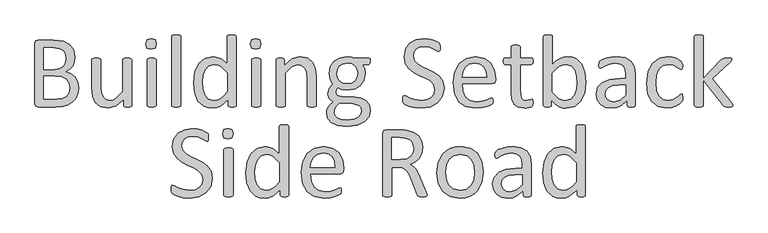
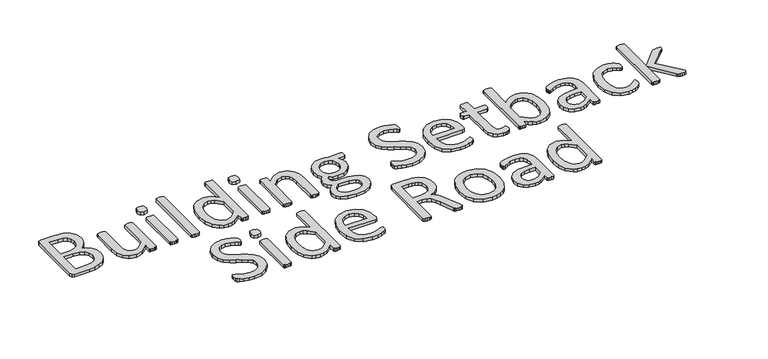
"""IFC4 building model written with IfcOpenShell, lengths in millimetres: proxy geometry, Marker-Setback Bldg Distance : Setback-Building-Side Road."""

from ifc_helpers import new_model, si_unit, origin, origin_with_axes, place, context, project, spatial, polyline, outline, extrude, source, transform, mapped, element, save


def generic_models_a72e6efc(model_context):
    return source(origin(), model_context, "Body", "SweptSolid", [
        extrude(outline(polyline([(2948.652928, 103.9978258), (2946.2704862, 86.8080563), (2939.5755234, 72.6340358), (2929.2013467, 61.6265518), (2915.5098461, 53.6649743), (2899.1946438, 48.8397759), (2879.2907001, 47.2414289), (2827.2388718, 47.2414289), (2820.5740664, 49.6540281), (2817.4075299, 58.0981254), (2817.4075299, 237.1129882), (2820.6042239, 245.5570855), (2827.3595017, 247.9696848), (2872.9576272, 247.9696848), (2902.4818102, 244.5015734), (2921.6318166, 234.4289716), (2933.1821354, 218.2042418), (2937.0724517, 196.4606912), (2935.3534747, 182.6184031), (2930.3171738, 170.4046195), (2921.9333915, 160.3923327), (2910.3529152, 153.1545351), (2925.3110304, 147.5753993), (2937.4343416, 137.2313801), (2945.6371789, 122.5446823), (2948.652928, 103.9978258)]), holes=[polyline([(2910.0513403, 192.8417924), (2908.0307885, 206.1714031), (2901.6977155, 216.2741624), (2890.4188141, 222.6072354), (2871.9925875, 224.8087322), (2844.4286413, 224.8087322), (2844.4286413, 159.1860331), (2874.7670766, 159.1860331), (2891.4743262, 161.9303648), (2901.9992904, 169.2887924), (2908.1212609, 180.085174), (2910.0513403, 192.8417924)]), polyline([(2921.6318166, 103.7565658), (2918.7970125, 119.3178309), (2910.5037027, 130.5967323), (2896.812202, 137.5329551), (2876.0940062, 139.8852393), (2844.4286413, 139.8852393), (2844.4286413, 70.4023815), (2882.849284, 70.4023815), (2898.7121239, 72.5435633), (2910.6243326, 78.8766363), (2918.70654, 89.311128), (2921.6318166, 103.7565658)])]), origin_with_axes(), (0.0, 0.0, 1.0), 10.0),
        extrude(outline(polyline([(3106.9194374, 51.9459974), (3106.3464451, 49.8952881), (3104.3258932, 48.4477285), (3100.495892, 47.5430038), (3094.7358113, 47.2414289), (3088.5836833, 47.5430038), (3084.8441545, 48.4477285), (3082.9743901, 49.8952881), (3082.4918702, 51.9459974), (3082.4918702, 70.1008066), (3059.3610751, 49.7746581), (3036.23028, 43.3812701), (3013.1899574, 48.0255236), (2998.0508972, 60.6011971), (2989.7575873, 79.1178962), (2987.2545156, 104.8422355), (2987.2545156, 189.1625786), (2987.827508, 191.2132879), (2990.0290048, 192.7513199), (2994.2510534, 193.6862021), (3000.7650713, 193.927462), (3007.2790892, 193.6862021), (3011.4106654, 192.7814774), (3013.6121622, 191.2736029), (3014.275627, 189.1625786), (3014.275627, 109.0642841), (3015.9644465, 89.7333328), (3021.1515348, 77.3386043), (3029.957522, 69.3770268), (3042.382408, 66.5422227), (3051.527667, 68.2385816), (3060.6276897, 73.3276581), (3079.898326, 93.2617592), (3079.898326, 189.2228935), (3080.4713184, 191.2736029), (3082.6728152, 192.7814774), (3086.8345488, 193.6862021), (3093.4088817, 193.927462), (3099.9228996, 193.6862021), (3103.9941608, 192.7814774), (3106.1956576, 191.2736029), (3106.9194374, 189.2228935), (3106.9194374, 51.9459974)])), origin_with_axes(), (0.0, 0.0, 1.0), 10.0),
        extrude(outline(polyline([(3180.262454, 236.5701534), (3176.94513, 224.2357399), (3164.640874, 220.9485734), (3152.6381928, 224.1452674), (3149.3811838, 236.2082635), (3152.6985078, 248.5426771), (3165.0027639, 251.8298435), (3177.005445, 248.6331496), (3180.262454, 236.5701534)])), origin_with_axes(), (0.0, 0.0, 1.0), 10.0),
        extrude(outline(polyline([(3180.262454, 51.9459974), (3179.5989892, 49.8952881), (3177.4578074, 48.4477285), (3173.3865462, 47.5430038), (3166.6915833, 47.2414289), (3160.1172504, 47.5430038), (3155.9555167, 48.4477285), (3153.8143349, 49.8952881), (3153.2413426, 51.9459974), (3153.2413426, 189.2228935), (3153.8143349, 191.1831304), (3155.9555167, 192.7211624), (3160.1172504, 193.6258871), (3166.6915833, 193.927462), (3173.3865462, 193.6258871), (3177.4578074, 192.7211624), (3179.5989892, 191.1831304), (3180.262454, 189.2228935), (3180.262454, 51.9459974)])), origin_with_axes(), (0.0, 0.0, 1.0), 10.0),
        extrude(outline(polyline([(3253.6054705, 52.0063124), (3252.9420058, 49.955603), (3250.8008239, 48.477886), (3246.7295627, 47.5430038), (3240.0345999, 47.2414289), (3233.460267, 47.5430038), (3229.2985333, 48.477886), (3227.1573515, 49.955603), (3226.5843592, 52.0063124), (3226.5843592, 258.4644914), (3227.1573515, 260.6358307), (3229.2985333, 262.1738627), (3233.460267, 263.1087449), (3240.0345999, 263.4103198), (3246.7295627, 263.1087449), (3250.8008239, 262.1738627), (3252.9420058, 260.6358307), (3253.6054705, 258.4644914), (3253.6054705, 52.0063124)])), origin_with_axes(), (0.0, 0.0, 1.0), 10.0),
        extrude(outline(polyline([(3419.5922975, 52.0666274), (3419.0193052, 49.8651306), (3417.0590683, 48.3874135), (3413.410012, 47.5430038), (3407.8911913, 47.2414289), (3402.1612681, 47.5430038), (3398.4217393, 48.3270986), (3396.310715, 49.6841856), (3395.6472502, 51.7047375), (3395.6472502, 68.834192), (3373.2402348, 50.1063905), (3361.0792268, 45.0625502), (3347.8174704, 43.3812701), (3333.8545524, 44.8816053), (3322.1232887, 49.3826107), (3304.9033617, 65.6073405), (3295.2529647, 89.6730178), (3292.2070582, 118.774996), (3296.006902, 151.4958731), (3307.2254884, 176.4059601), (3325.6215575, 192.2386426), (3351.0141644, 197.7876208), (3372.9386599, 192.38943), (3392.5711861, 176.5567476), (3392.5711861, 258.4041764), (3393.1441785, 260.5152008), (3395.3456753, 262.0833903), (3399.5074089, 263.0182725), (3405.9007969, 263.4103198), (3412.5957598, 263.0182725), (3416.6670209, 262.0833903), (3418.8685177, 260.5453582), (3419.5922975, 258.4644914), (3419.5922975, 52.0666274)]), holes=[polyline([(3392.5711861, 149.0531164), (3373.2100773, 168.0824928), (3363.6652316, 172.9906243), (3353.7283386, 174.6266682), (3337.7448687, 170.0427297), (3327.0691171, 157.949576), (3321.097934, 140.9407515), (3319.2281696, 121.6701151), (3320.7963591, 101.2836516), (3326.2548648, 83.6113623), (3336.5687265, 71.2166337), (3352.7029839, 66.5422227), (3362.1724359, 67.8993098), (3371.5212579, 72.3927759), (3381.5033872, 80.5352983), (3392.5711861, 92.8998693), (3392.5711861, 149.0531164)])]), origin_with_axes(), (0.0, 0.0, 1.0), 10.0),
        extrude(outline(polyline([(3492.9353141, 236.5701534), (3489.6179901, 224.2357399), (3477.3137341, 220.9485734), (3465.3110529, 224.1452674), (3462.0540439, 236.2082635), (3465.3713679, 248.5426771), (3477.675624, 251.8298435), (3489.6783051, 248.6331496), (3492.9353141, 236.5701534)])), origin_with_axes(), (0.0, 0.0, 1.0), 10.0),
        extrude(outline(polyline([(3492.9353141, 51.9459974), (3492.2718493, 49.8952881), (3490.1306675, 48.4477285), (3486.0594063, 47.5430038), (3479.3644434, 47.2414289), (3472.7901105, 47.5430038), (3468.6283768, 48.4477285), (3466.487195, 49.8952881), (3465.9142027, 51.9459974), (3465.9142027, 189.2228935), (3466.487195, 191.1831304), (3468.6283768, 192.7211624), (3472.7901105, 193.6258871), (3479.3644434, 193.927462), (3486.0594063, 193.6258871), (3490.1306675, 192.7211624), (3492.2718493, 191.1831304), (3492.9353141, 189.2228935), (3492.9353141, 51.9459974)])), origin_with_axes(), (0.0, 0.0, 1.0), 10.0),
        extrude(outline(polyline([(3658.922141, 52.0063124), (3658.2586763, 49.955603), (3656.1174944, 48.477886), (3652.0462332, 47.5430038), (3645.4719003, 47.2414289), (3638.7769375, 47.5430038), (3634.7056763, 48.4477285), (3632.5644945, 49.8952881), (3631.9010297, 52.0063124), (3631.9010297, 132.5871266), (3630.1217378, 151.5260306), (3624.9648069, 163.9207591), (3616.1889772, 171.8823366), (3603.7339337, 174.6266682), (3585.428337, 167.9015478), (3566.2783306, 148.1483917), (3566.2783306, 52.0063124), (3565.6148659, 49.8952881), (3563.473684, 48.4477285), (3559.4024228, 47.5430038), (3552.70746, 47.2414289), (3546.1331271, 47.5430038), (3541.9713934, 48.4477285), (3539.8302116, 49.8952881), (3539.2572193, 51.9459974), (3539.2572193, 189.2228935), (3539.7397391, 191.2736029), (3541.699976, 192.7814774), (3545.4696623, 193.6862021), (3551.5614754, 193.927462), (3557.5326584, 193.6862021), (3561.2118723, 192.7814774), (3563.1117942, 191.2736029), (3563.6847865, 189.2228935), (3563.6847865, 171.0680843), (3586.7552666, 191.3640754), (3609.9463767, 197.7876208), (3632.9866993, 193.0830523), (3648.1257595, 180.5073788), (3656.4190693, 162.0811522), (3658.922141, 136.6885453), (3658.922141, 52.0063124)])), origin_with_axes(), (0.0, 0.0, 1.0), 10.0),
        extrude(outline(polyline([(3821.0488092, 184.2167501), (3819.5710922, 176.88848), (3815.8014059, 174.6266682), (3795.8371473, 174.6266682), (3803.4368349, 162.1414672), (3805.6081742, 147.9674467), (3801.7480154, 126.4953136), (3790.6802165, 110.6927886), (3773.5507619, 100.8312893), (3751.5659514, 97.4234929), (3735.3713791, 99.6853046), (3723.5194854, 105.3850703), (3718.694287, 99.0821548), (3716.8245225, 90.9094749), (3721.9512959, 81.9828578), (3735.5824816, 78.122699), (3772.6158797, 76.5545095), (3792.0373035, 73.629233), (3807.3271511, 66.1803328), (3817.4299104, 54.3284391), (3821.0488092, 38.0132368), (3817.0077055, 19.3457503), (3804.612977, 3.7844853), (3783.3217888, -6.8007938), (3752.7722511, -10.6609526), (3723.8512178, -7.7658335), (3704.309164, 0.135429), (3693.2413651, 12.1079526), (3689.8034112, 27.1565403), (3691.0398683, 37.1989846), (3694.8397121, 46.4271767), (3701.1727851, 54.7808015), (3709.8882998, 62.682064), (3697.6443587, 72.6038783), (3693.6635699, 85.5414417), (3697.7649886, 102.7010537), (3707.8979054, 116.2417669), (3700.2982178, 129.2094877), (3697.5237287, 146.7611471), (3701.5346749, 168.2031228), (3712.6929464, 184.2469076), (3729.8224009, 194.2893519), (3751.5659514, 197.7876208), (3763.3876877, 196.7622661), (3773.7015494, 193.927462), (3815.8014059, 193.927462), (3819.7218797, 191.5450203), (3821.0488092, 184.2167501)]), holes=[polyline([(3782.4472216, 147.7865018), (3780.411591, 160.6712895), (3774.3046992, 170.3744621), (3764.4431998, 176.4587357), (3751.1437466, 178.486827), (3737.6935059, 175.9535978), (3728.1637389, 169.017375), (3722.5242882, 158.8543007), (3720.6846813, 146.8214621), (3722.7203119, 134.2759461), (3728.8272037, 124.7461791), (3738.5982306, 118.7297598), (3751.6262664, 116.7242867), (3765.3479245, 119.1670434), (3774.968164, 125.9524788), (3780.6076147, 135.9647656), (3782.4472216, 147.7865018)]), polyline([(3794.0276979, 37.1688271), (3792.1579335, 45.6657), (3786.5486403, 51.9761549), (3766.3431217, 57.4949756), (3729.6716134, 58.8219052), (3721.3783036, 50.9809577), (3716.2515302, 43.86379), (3713.6579861, 37.1989846), (3712.9643638, 30.4135493), (3715.557908, 20.9817942), (3723.3385405, 14.158662), (3735.7634265, 10.0195464), (3752.2897312, 8.6398412), (3772.0730449, 11.022283), (3784.9201358, 17.3855134), (3791.9166736, 26.462918), (3794.0276979, 37.1688271)])]), origin_with_axes(), (0.0, 0.0, 1.0), 10.0),
        extrude(outline(polyline([(4041.077859, 103.153416), (4035.8907706, 77.8211241), (4021.4453327, 58.9726927), (3999.7017822, 47.3017439), (3972.8013008, 43.3812701), (3954.1036567, 44.8891447), (3938.7233367, 48.598516), (3927.3841203, 53.152297), (3921.0208898, 57.1632432), (3918.3971881, 61.8074967), (3917.5527784, 69.7389167), (3917.8543533, 75.6196273), (3918.7892355, 79.3893136), (3920.357425, 81.4098655), (3922.5589218, 81.9828578), (3928.7412073, 79.5702586), (3939.0249116, 74.3228552), (3954.1338142, 69.0151369), (3974.5504352, 66.5422227), (3990.6243776, 68.894507), (4003.1397361, 75.5291549), (4011.2219435, 86.0239615), (4014.0567476, 100.197982), (4010.0759589, 114.9148373), (3999.6113097, 125.6207464), (3984.8039819, 134.0648437), (3967.7348424, 141.9057912), (3950.7561753, 150.7419358), (3936.0091625, 162.1414672), (3925.4540409, 177.5821023), (3921.4129372, 198.7526605), (3926.0270332, 221.4009358), (3938.8439666, 238.0478704), (3958.3860204, 248.3014172), (3982.8739025, 251.8298435), (3996.4146157, 250.5330714), (4009.2315491, 247.0951175), (4019.9676157, 242.3000766), (4026.1499012, 238.0177129), (4028.0799806, 235.5146412), (4028.8640754, 233.282987), (4029.3465952, 229.9958205), (4029.4973827, 225.0499921), (4029.2561227, 219.9232187), (4028.5625004, 216.1836899), (4027.2355709, 213.9520356), (4025.275334, 213.2282559), (4019.8469857, 215.5805401), (4010.7997386, 220.8581009), (3998.1335927, 226.2261342), (3981.7279179, 228.6688909), (3966.9809051, 226.4673941), (3956.6067284, 220.616841), (3950.4847579, 211.9314838), (3948.4340486, 201.2858897), (3952.3545223, 186.7499793), (3962.8191715, 175.9535978), (3977.6868142, 167.3285555), (3994.6654813, 159.4272931), (4011.6743058, 150.6514634), (4026.5419486, 139.372562), (4037.0669127, 124.0525569), (4041.077859, 103.153416)])), origin_with_axes(), (0.0, 0.0, 1.0), 10.0),
        extrude(outline(polyline([(4195.4842096, 127.7619282), (4192.4986181, 119.2575159), (4185.6528678, 116.7242867), (4095.1200817, 116.7242867), (4097.3818935, 94.4077438), (4104.8911086, 77.3989193), (4118.5826092, 66.4819078), (4139.2103326, 62.682064), (4156.3397871, 64.4613559), (4169.367823, 68.4723021), (4178.3849126, 72.4832483), (4183.7227884, 74.2625403), (4185.5925528, 73.7498629), (4186.8893249, 72.2419884), (4187.5527897, 69.4373418), (4187.7638921, 65.0343482), (4187.6131046, 61.8074967), (4187.2210573, 59.36474), (4186.46712, 57.4045032), (4185.1100329, 55.7458412), (4180.194362, 52.8205646), (4169.6090829, 48.6588309), (4154.5303377, 45.0097746), (4136.2548985, 43.3812701), (4106.7910305, 48.2064686), (4085.5299997, 62.561434), (4072.5019639, 86.4763239), (4068.0989703, 119.8606657), (4072.7130663, 152.4307553), (4086.0125196, 176.9186375), (4107.0021329, 192.38943), (4134.5660791, 197.7876208), (4162.3109702, 192.570375), (4181.1594017, 178.5169845), (4192.0160982, 157.7987886), (4195.4842096, 132.4061817), (4195.4842096, 127.7619282)]), holes=[polyline([(4168.4630983, 136.0250805), (4166.5104008, 153.7350668), (4159.8078985, 167.1777681), (4148.5214577, 175.6595622), (4132.8169446, 178.486827), (4116.7430023, 174.9885581), (4105.1926835, 165.6698936), (4097.9850433, 152.1291804), (4095.1200817, 136.0250805), (4168.4630983, 136.0250805)])]), origin_with_axes(), (0.0, 0.0, 1.0), 10.0),
        extrude(outline(polyline([(4307.4288139, 61.1138745), (4306.825664, 53.5745019), (4304.9860571, 49.4730832), (4301.3068433, 47.000169), (4295.7277076, 45.1002471), (4289.0629022, 43.86379), (4282.036207, 43.3812701), (4263.6702953, 46.3065467), (4251.1549368, 55.1426914), (4244.0377691, 70.1309641), (4241.8061148, 91.5729397), (4241.8061148, 174.6266682), (4223.4703607, 174.6266682), (4219.9419343, 176.88848), (4218.6451622, 184.2167501), (4219.0070521, 188.7102162), (4219.9419343, 191.7561227), (4221.4799663, 193.4449422), (4223.5909906, 193.927462), (4241.8061148, 193.927462), (4241.8061148, 227.5229063), (4242.3791071, 229.5434582), (4244.520289, 231.2021201), (4248.6820226, 232.2274748), (4255.2563555, 232.5290497), (4261.9513184, 232.2274748), (4266.0225796, 231.2021201), (4268.1637614, 229.5434582), (4268.8272262, 227.5229063), (4268.8272262, 193.927462), (4302.6036154, 193.927462), (4304.6241672, 193.4449422), (4306.1621993, 191.7561227), (4307.1272389, 188.7102162), (4307.4288139, 184.2167501), (4306.1018843, 176.88848), (4302.6036154, 174.6266682), (4268.8272262, 174.6266682), (4268.8272262, 95.9759333), (4272.8381724, 73.9911229), (4278.4399262, 68.4044478), (4287.2232953, 66.5422227), (4293.2246359, 67.235845), (4297.8990469, 68.6834045), (4301.4274733, 70.1611216), (4304.0511749, 70.8849013), (4306.4637742, 69.0151369), (4307.1272389, 65.9993879), (4307.4288139, 61.1138745)])), origin_with_axes(), (0.0, 0.0, 1.0), 10.0),
        extrude(outline(polyline([(4465.6953233, 122.3938949), (4461.8351645, 89.5222304), (4450.4657907, 64.6121434), (4432.0094065, 48.8397759), (4406.9485321, 43.3812701), (4394.8855359, 44.7081997), (4384.0288394, 49.0207208), (4373.4134028, 56.5299359), (4362.1948164, 67.4469474), (4362.1948164, 51.7047375), (4361.5313516, 49.6841856), (4359.3901698, 48.3270986), (4355.7109559, 47.5430038), (4350.0715052, 47.2414289), (4344.522527, 47.5430038), (4340.7528407, 48.3874135), (4338.7926038, 49.8651306), (4338.310084, 52.0063124), (4338.310084, 258.4644914), (4338.8830763, 260.6358307), (4341.0242581, 262.1738627), (4345.1859918, 263.1087449), (4351.7603247, 263.4103198), (4358.4552875, 263.1087449), (4362.5265487, 262.1738627), (4364.6677306, 260.6056732), (4365.3311954, 258.4644914), (4365.3311954, 174.6869832), (4377.0624591, 185.4532072), (4388.190573, 192.570375), (4399.0774271, 196.5511637), (4410.5674309, 197.7876208), (4424.3267859, 196.2646675), (4435.9298803, 191.6958077), (4453.0593348, 175.3806055), (4462.6795742, 151.4054006), (4465.6953233, 122.3938949)]), holes=[polyline([(4438.6742119, 119.4384608), (4437.1060224, 139.9757118), (4431.6173592, 157.6178436), (4421.27334, 169.9522572), (4405.1993976, 174.6266682), (4395.7902606, 173.2695811), (4386.3509661, 168.7459576), (4376.3688368, 160.6335927), (4365.3311954, 148.1483917), (4365.3311954, 92.1157746), (4384.8129341, 73.0863981), (4394.2974648, 68.1782666), (4404.1740429, 66.5422227), (4420.0670404, 71.1563188), (4430.8031069, 83.3399449), (4436.8044475, 100.3487694), (4438.6742119, 119.4384608)])]), origin_with_axes(), (0.0, 0.0, 1.0), 10.0),
        extrude(outline(polyline([(4612.3813564, 51.8856824), (4611.0544268, 49.0810358), (4607.435528, 47.6937913), (4600.6802502, 47.2414289), (4593.8344998, 47.6937913), (4590.1251285, 49.0810358), (4588.9791439, 51.8856824), (4588.9791439, 65.758128), (4568.6529954, 49.7143431), (4557.1026766, 44.9645384), (4544.888893, 43.3812701), (4524.9547919, 46.2462317), (4509.7855742, 54.5395416), (4500.0447048, 67.8691523), (4496.5765934, 85.8430166), (4501.3716344, 106.289795), (4515.12345, 120.7050754), (4537.0479455, 129.2999602), (4566.2403962, 132.1649218), (4585.3602451, 132.1649218), (4585.3602451, 143.6850831), (4583.6714256, 158.7638283), (4578.2430773, 169.6808398), (4568.5625229, 176.2551727), (4553.9361401, 178.486827), (4537.1987329, 176.0742277), (4524.2310121, 170.7665094), (4514.9123476, 165.4587911), (4509.3633693, 163.0461919), (4507.19203, 163.6794992), (4505.593683, 165.6095786), (4504.5984859, 168.9269025), (4504.296911, 173.3600536), (4504.8397458, 179.6931266), (4507.4936049, 184.1262777), (4514.7314026, 188.6499012), (4526.5531388, 193.1132098), (4541.1795217, 196.4606912), (4557.1931491, 197.7876208), (4582.8270159, 194.3798244), (4599.9263129, 184.4278526), (4609.4259224, 168.1729653), (4612.3813564, 145.4945325), (4612.3813564, 51.8856824)]), holes=[polyline([(4585.3602451, 112.8641279), (4563.8881119, 112.8641279), (4545.9745626, 111.084836), (4533.3385742, 105.8374327), (4525.949989, 97.5139653), (4523.5977048, 86.3255364), (4525.2865242, 76.584667), (4530.3529826, 69.0754519), (4538.4653475, 64.280411), (4549.2918866, 62.682064), (4567.6276407, 67.7786798), (4585.3602451, 83.3701024), (4585.3602451, 112.8641279)])]), origin_with_axes(), (0.0, 0.0, 1.0), 10.0),
        extrude(outline(polyline([(4755.2072308, 74.98632), (4755.0564433, 70.7642714), (4754.5136085, 67.7485223), (4753.6088838, 65.3057656), (4751.1962846, 61.6868668), (4744.7124241, 55.8061562), (4734.4287199, 49.5635557), (4722.0339914, 45.1002471), (4708.1615458, 43.3812701), (4681.9848442, 48.3874135), (4662.8951528, 63.0137964), (4651.163889, 86.5969538), (4647.1227853, 118.835311), (4652.0686137, 154.5719371), (4665.6093269, 179.0296618), (4685.8450029, 193.1735248), (4711.0566649, 197.7876208), (4723.7831258, 196.4305337), (4735.1223422, 192.8719499), (4744.3505343, 187.8054915), (4750.2010874, 182.8898206), (4752.7041591, 179.6629691), (4753.8501437, 177.0995824), (4754.4532935, 173.9330459), (4754.604081, 169.4998948), (4753.2469939, 161.4780024), (4749.9598275, 159.1860331), (4744.7425816, 161.5986324), (4737.2936815, 166.9063507), (4726.3465125, 172.214069), (4711.2376098, 174.6266682), (4695.3672305, 171.1283993), (4683.7038211, 160.6335927), (4676.5338778, 143.4739807), (4674.1438967, 119.9812957), (4676.6168109, 96.6393981), (4683.9149236, 79.8718335), (4695.7668173, 69.8293892), (4711.8407596, 66.5422227), (4726.8893473, 69.5881293), (4738.1079338, 76.2830921), (4746.0996687, 82.8875825), (4751.1661271, 85.8430166), (4752.945419, 85.2700243), (4754.2421911, 83.3399449), (4754.9961284, 79.901991), (4755.2072308, 74.98632)])), origin_with_axes(), (0.0, 0.0, 1.0), 10.0),
        extrude(outline(polyline([(4905.7534227, 52.1269423), (4905.1201154, 49.9857605), (4903.0392486, 48.4477285), (4898.9679874, 47.5430038), (4892.303182, 47.2414289), (4885.4272742, 47.4826888), (4880.8433356, 48.2366261), (4877.8275866, 49.7445006), (4875.7165623, 52.1269423), (4816.9697711, 128.0635031), (4816.9697711, 51.9459974), (4816.3063063, 49.8952881), (4814.1651244, 48.4477285), (4810.0938633, 47.5430038), (4803.3989004, 47.2414289), (4796.8245675, 47.5430038), (4792.6628338, 48.477886), (4790.521652, 49.955603), (4789.9486597, 52.0063124), (4789.9486597, 258.4644914), (4790.521652, 260.6358307), (4792.6628338, 262.1738627), (4796.8245675, 263.1087449), (4803.3989004, 263.4103198), (4810.0938633, 263.1087449), (4814.1651244, 262.1738627), (4816.3063063, 260.6056732), (4816.9697711, 258.4041764), (4816.9697711, 131.561772), (4870.6501039, 188.6197437), (4873.3341205, 191.1228154), (4876.7117595, 192.7814774), (4881.356013, 193.6862021), (4887.8398734, 193.927462), (4894.4745213, 193.6862021), (4898.7870424, 192.9322649), (4901.1694842, 191.5751778), (4901.8932639, 189.3435235), (4900.8377518, 185.6944672), (4897.3093254, 181.442261), (4843.9908824, 131.7427169), (4901.9535789, 59.304425), (4904.8788555, 55.1125339), (4905.7534227, 52.1269423)])), origin_with_axes(), (0.0, 0.0, 1.0), 10.0),
        extrude(outline(polyline([(3348.1793603, -166.3294418), (3342.992272, -191.6617337), (3328.5468341, -210.5101651), (3306.8032836, -222.1811139), (3279.9028021, -226.1015877), (3261.2051581, -224.5937131), (3245.824838, -220.8843418), (3234.4856217, -216.3305608), (3228.1223912, -212.3196146), (3225.4986895, -207.6753611), (3224.6542798, -199.7439411), (3224.9558547, -193.8632305), (3225.8907369, -190.0935442), (3227.4589264, -188.0729923), (3229.6604232, -187.5), (3235.8427087, -189.9125992), (3246.1264129, -195.1600026), (3261.2353156, -200.4677209), (3281.6519366, -202.9406351), (3297.725879, -200.5883508), (3310.2412375, -193.9537029), (3318.3234449, -183.4588963), (3321.158249, -169.2848758), (3317.1774602, -154.5680205), (3306.7128111, -143.8621114), (3291.9054833, -135.4180141), (3274.8363438, -127.5770666), (3257.8576767, -118.740922), (3243.1106639, -107.3413906), (3232.5555423, -91.9007555), (3228.5144386, -70.7301973), (3233.1285346, -48.081922), (3245.945468, -31.4349874), (3265.4875218, -21.1814406), (3289.9754039, -17.6530143), (3303.5161171, -18.9497864), (3316.3330505, -22.3877403), (3327.0691171, -27.1827812), (3333.2514026, -31.4651449), (3335.181482, -33.9682166), (3335.9655767, -36.1998708), (3336.4480966, -39.4870373), (3336.598884, -44.4328657), (3336.3576241, -49.5596391), (3335.6640018, -53.2991679), (3334.3370723, -55.5308222), (3332.3768354, -56.2546019), (3326.9484871, -53.9023177), (3317.90124, -48.6247569), (3305.2350941, -43.2567236), (3288.8294193, -40.8139669), (3274.0824065, -43.0154637), (3263.7082298, -48.8660168), (3257.5862593, -57.551374), (3255.5355499, -68.1969681), (3259.4560237, -82.7328785), (3269.9206728, -93.52926), (3284.7883156, -102.1543023), (3301.7669827, -110.0555647), (3318.7758072, -118.8313944), (3333.64345, -130.1102958), (3344.1684141, -145.4303009), (3348.1793603, -166.3294418)])), origin_with_axes(), (0.0, 0.0, 1.0), 10.0),
        extrude(outline(polyline([(3409.9419006, -217.5368604), (3409.2784358, -219.5875697), (3407.137254, -221.0351293), (3403.0659928, -221.939854), (3396.3710299, -222.2414289), (3389.796697, -221.939854), (3385.6349634, -221.0351293), (3383.4937815, -219.5875697), (3382.9207892, -217.5368604), (3382.9207892, -80.2599643), (3383.4937815, -78.2997274), (3385.6349634, -76.7616954), (3389.796697, -75.8569707), (3396.3710299, -75.5553958), (3403.0659928, -75.8569707), (3407.137254, -76.7616954), (3409.2784358, -78.2997274), (3409.9419006, -80.2599643), (3409.9419006, -217.5368604)])), origin_with_axes(), (0.0, 0.0, 1.0), 10.0),
        extrude(outline(polyline([(3409.9419006, -32.9127044), (3406.6245767, -45.2471179), (3394.3203206, -48.5342844), (3382.3176394, -45.3375904), (3379.0606305, -33.2745943), (3382.3779544, -20.9401807), (3394.6822105, -17.6530143), (3406.6848916, -20.8497082), (3409.9419006, -32.9127044)])), origin_with_axes(), (0.0, 0.0, 1.0), 10.0),
        extrude(outline(polyline([(3575.9287276, -217.4162304), (3575.3557352, -219.6177272), (3573.3954984, -221.0954443), (3569.746442, -221.939854), (3564.2276213, -222.2414289), (3558.4976981, -221.939854), (3554.7581693, -221.1557592), (3552.647145, -219.7986722), (3551.9836802, -217.7781203), (3551.9836802, -200.6486658), (3529.5766649, -219.3764673), (3517.4156569, -224.4203076), (3504.1539005, -226.1015877), (3490.1909825, -224.6012525), (3478.4597187, -220.1002471), (3461.2397917, -203.8755173), (3451.5893948, -179.80984), (3448.5434883, -150.7078618), (3452.3433321, -117.9869847), (3463.5619185, -93.0768977), (3481.9579876, -77.2442152), (3507.3505945, -71.695237), (3529.27509, -77.0934278), (3548.9076162, -92.9261102), (3548.9076162, -11.0786814), (3549.4806085, -8.967657), (3551.6821053, -7.3994675), (3555.843839, -6.4645853), (3562.2372269, -6.072538), (3568.9321898, -6.4645853), (3573.003451, -7.3994675), (3575.2049478, -8.9374996), (3575.9287276, -11.0183664), (3575.9287276, -217.4162304)]), holes=[polyline([(3548.9076162, -120.4297414), (3529.5465074, -101.400365), (3520.0016617, -96.4922335), (3510.0647686, -94.8561896), (3494.0812987, -99.4401281), (3483.4055471, -111.5332818), (3477.434364, -128.5421063), (3475.5645996, -147.8127427), (3477.1327891, -168.1992062), (3482.5912949, -185.8714955), (3492.9051566, -198.2662241), (3509.0394139, -202.9406351), (3518.5088659, -201.583548), (3527.8576879, -197.0900819), (3537.8398172, -188.9475595), (3548.9076162, -176.5829885), (3548.9076162, -120.4297414)])]), origin_with_axes(), (0.0, 0.0, 1.0), 10.0),
        extrude(outline(polyline([(3741.9155545, -141.7209296), (3738.929963, -150.2253419), (3732.0842127, -152.7585711), (3641.5514266, -152.7585711), (3643.8132384, -175.075114), (3651.3224535, -192.0839385), (3665.0139541, -203.00095), (3685.6416775, -206.8007938), (3702.771132, -205.0215019), (3715.7991679, -201.0105557), (3724.8162575, -196.9996095), (3730.1541333, -195.2203175), (3732.0238977, -195.7329949), (3733.3206698, -197.2408694), (3733.9841346, -200.045516), (3734.195237, -204.4485096), (3734.0444495, -207.6753611), (3733.6524022, -210.1181178), (3732.8984649, -212.0783546), (3731.5413778, -213.7370166), (3726.6257069, -216.6622932), (3716.0404278, -220.8240269), (3700.9616826, -224.4730832), (3682.6862435, -226.1015877), (3653.2223754, -221.2763892), (3631.9613447, -206.9214238), (3618.9333088, -183.0065339), (3614.5303152, -149.6221921), (3619.1444113, -117.0521025), (3632.4438645, -92.5642203), (3653.4334778, -77.0934278), (3680.997424, -71.695237), (3708.7423151, -76.9124828), (3727.5907466, -90.9658733), (3738.4474431, -111.6840692), (3741.9155545, -137.0766761), (3741.9155545, -141.7209296)]), holes=[polyline([(3714.8944432, -133.4577773), (3712.9417457, -115.747791), (3706.2392434, -102.3050897), (3694.9528027, -93.8232956), (3679.2482896, -90.9960308), (3663.1743472, -94.4942997), (3651.6240284, -103.8129642), (3644.4163882, -117.3536774), (3641.5514266, -133.4577773), (3714.8944432, -133.4577773)])]), origin_with_axes(), (0.0, 0.0, 1.0), 10.0),
        extrude(outline(polyline([(3990.2323302, -217.3559155), (3989.7799678, -219.4669398), (3987.7895735, -221.0049718), (3983.4468949, -221.939854), (3975.9979947, -222.2414289), (3969.4538193, -221.939854), (3965.3524006, -220.9446568), (3962.9699589, -219.0447349), (3961.5223994, -215.9686709), (3943.1263302, -169.5261357), (3936.4615249, -154.9902254), (3928.3793175, -143.5605365), (3917.3718335, -136.1116364), (3902.1121434, -133.4577773), (3884.7414289, -133.4577773), (3884.7414289, -217.3559155), (3884.0478066, -219.4970973), (3881.8463098, -220.9446568), (3877.7448911, -221.8493815), (3871.2308732, -222.2414289), (3864.7168553, -221.8493815), (3860.5551216, -220.9144993), (3858.3536248, -219.4669398), (3857.7203175, -217.2956005), (3857.7203175, -32.3095546), (3860.826539, -23.8956148), (3867.4913444, -21.513173), (3909.349941, -21.513173), (3921.7145121, -21.9052204), (3930.6411292, -22.7797876), (3950.8164903, -29.1128606), (3965.5333456, -40.1505021), (3974.4298052, -55.4705072), (3977.3852393, -74.4697261), (3974.7615376, -92.5642203), (3967.1618501, -106.7080833), (3955.2496414, -117.3235199), (3939.6883763, -124.953365), (3948.6753085, -130.4118707), (3956.1845236, -138.3131332), (3962.728699, -148.8984123), (3968.941142, -162.408968), (3986.8546913, -206.137329), (3989.6291804, -213.8576466), (3990.2323302, -217.3559155)]), holes=[polyline([(3950.3641279, -77.3648452), (3945.2071971, -58.0037364), (3938.2935924, -51.2032223), (3927.8666401, -46.604205), (3919.3019129, -45.126488), (3906.7563969, -44.6741256), (3884.7414289, -44.6741256), (3884.7414289, -110.2968247), (3910.2546657, -110.2968247), (3928.1079, -107.8239105), (3940.653416, -100.8876877), (3948.0118437, -90.4230385), (3950.3641279, -77.3648452)])]), origin_with_axes(), (0.0, 0.0, 1.0), 10.0),
        extrude(outline(polyline([(4158.8127013, -147.3905378), (4154.3493928, -179.0257452), (4140.9896245, -203.9358322), (4130.9773377, -213.2469574), (4118.7333966, -220.2510345), (4104.3105769, -224.6389494), (4087.761654, -226.1015877), (4057.9057386, -220.9446568), (4036.6748654, -205.9563841), (4024.0087194, -182.0716517), (4019.8469857, -150.2253419), (4024.2499793, -118.5901345), (4037.5192751, -93.710205), (4047.493865, -84.4367767), (4059.6850305, -77.4854751), (4074.0927715, -73.1427965), (4090.7170881, -71.695237), (4120.603161, -76.8521679), (4141.8340343, -91.8404406), (4154.5604952, -115.7251729), (4158.8127013, -147.3905378)]), holes=[polyline([(4131.79159, -149.1999872), (4129.7107231, -128.2405314), (4122.8649728, -110.930132), (4109.9877244, -99.1687107), (4089.6917334, -94.8561896), (4070.4210971, -98.8068208), (4057.1518013, -109.9650923), (4049.4013263, -127.0342318), (4046.8680971, -148.5968374), (4048.9489639, -169.6769232), (4055.8550292, -186.9270077), (4068.8227501, -198.6281139), (4089.0885836, -202.9406351), (4108.298905, -198.9900038), (4121.6586732, -187.9222049), (4129.3488332, -170.9133803), (4131.79159, -149.1999872)])]), origin_with_axes(), (0.0, 0.0, 1.0), 10.0),
        extrude(outline(polyline([(4301.6385757, -217.5971754), (4300.3116461, -220.401822), (4296.6927473, -221.7890665), (4289.9374694, -222.2414289), (4283.0917191, -221.7890665), (4279.3823478, -220.401822), (4278.2363632, -217.5971754), (4278.2363632, -203.7247298), (4257.9102147, -219.7685147), (4246.3598959, -224.5183194), (4234.1461123, -226.1015877), (4214.2120111, -223.2366261), (4199.0427935, -214.9433162), (4189.3019241, -201.6137055), (4185.8338127, -183.6398412), (4190.6288537, -163.1930628), (4204.3806693, -148.7777824), (4226.3051648, -140.1828976), (4255.4976154, -137.317936), (4274.6174643, -137.317936), (4274.6174643, -125.7977747), (4272.9286449, -110.7190295), (4267.5002966, -99.802018), (4257.8197422, -93.2276851), (4243.1933594, -90.9960308), (4226.4559522, -93.4086301), (4213.4882314, -98.7163484), (4204.1695668, -104.0240667), (4198.6205886, -106.4366659), (4196.4492493, -105.8033586), (4194.8509023, -103.8732792), (4193.8557051, -100.5559553), (4193.5541302, -96.1228042), (4194.0969651, -89.7897312), (4196.7508242, -85.3565801), (4203.9886219, -80.8329566), (4215.8103581, -76.369648), (4230.436741, -73.0221666), (4246.4503683, -71.695237), (4272.0842351, -75.1030334), (4289.1835322, -85.0550052), (4298.6831416, -101.3098925), (4301.6385757, -123.9883253), (4301.6385757, -217.5971754)]), holes=[polyline([(4274.6174643, -156.6187299), (4253.1453312, -156.6187299), (4235.2317819, -158.3980218), (4222.5957935, -163.6454251), (4215.2072083, -171.9688925), (4212.8549241, -183.1573214), (4214.5437435, -192.8981908), (4219.6102019, -200.4074059), (4227.7225668, -205.2024468), (4238.5491059, -206.8007938), (4256.88486, -201.704178), (4274.6174643, -186.1127554), (4274.6174643, -156.6187299)])]), origin_with_axes(), (0.0, 0.0, 1.0), 10.0),
        extrude(outline(polyline([(4463.7652439, -217.4162304), (4463.1922516, -219.6177272), (4461.2320147, -221.0954443), (4457.5829584, -221.939854), (4452.0641376, -222.2414289), (4446.3342145, -221.939854), (4442.5946857, -221.1557592), (4440.4836613, -219.7986722), (4439.8201966, -217.7781203), (4439.8201966, -200.6486658), (4417.4131812, -219.3764673), (4405.2521732, -224.4203076), (4391.9904168, -226.1015877), (4378.0274988, -224.6012525), (4366.296235, -220.1002471), (4349.076308, -203.8755173), (4339.4259111, -179.80984), (4336.3800046, -150.7078618), (4340.1798484, -117.9869847), (4351.3984348, -93.0768977), (4369.7945039, -77.2442152), (4395.1871108, -71.695237), (4417.1116063, -77.0934278), (4436.7441325, -92.9261102), (4436.7441325, -11.0786814), (4437.3171249, -8.967657), (4439.5186216, -7.3994675), (4443.6803553, -6.4645853), (4450.0737433, -6.072538), (4456.7687061, -6.4645853), (4460.8399673, -7.3994675), (4463.0414641, -8.9374996), (4463.7652439, -11.0183664), (4463.7652439, -217.4162304)]), holes=[polyline([(4436.7441325, -120.4297414), (4417.3830237, -101.400365), (4407.838178, -96.4922335), (4397.9012849, -94.8561896), (4381.9178151, -99.4401281), (4371.2420635, -111.5332818), (4365.2708804, -128.5421063), (4363.401116, -147.8127427), (4364.9693055, -168.1992062), (4370.4278112, -185.8714955), (4380.7416729, -198.2662241), (4396.8759303, -202.9406351), (4406.3453822, -201.583548), (4415.6942043, -197.0900819), (4425.6763336, -188.9475595), (4436.7441325, -176.5829885), (4436.7441325, -120.4297414)])]), origin_with_axes(), (0.0, 0.0, 1.0), 10.0),
    ])


if __name__ == "__main__":
    model = new_model("IFC4")
    model_context = context("Model", 3, world=origin())
    ifc_project = project(units=[si_unit("LENGTHUNIT", "METRE", prefix="MILLI")], contexts=[model_context])
    site = spatial("IfcSite", under=ifc_project)
    building = spatial("IfcBuilding", under=site)
    placement = place(None, origin())
    generic_models_shape = generic_models_a72e6efc(model_context)
    element("IfcBuildingElementProxy", 1, Name="Marker-Setback Bldg Distance : Setback-Building-Side Road", ObjectType="Marker-Setback Bldg Distance : Setback-Building-Side Road", at=placement, inside=building, context=model_context, shape_type="MappedRepresentation", body=[
        mapped(generic_models_shape, transform((0.0, 0.0, 0.0), x_axis=(1.0, 0.0, 0.0), y_axis=(0.0, 1.0, 0.0), z_axis=(0.0, 0.0, 1.0))),
    ])
    save(model, "model.ifc")
